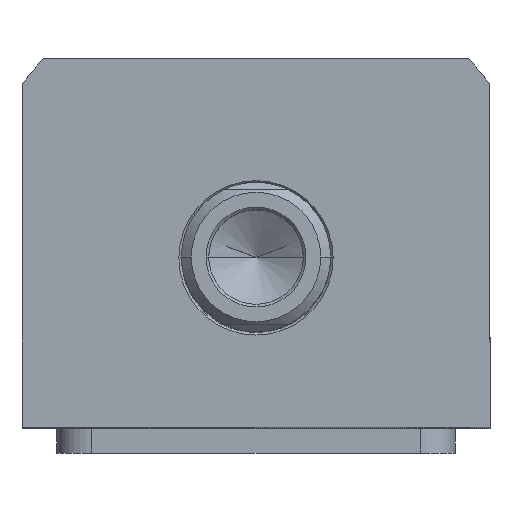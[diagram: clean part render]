
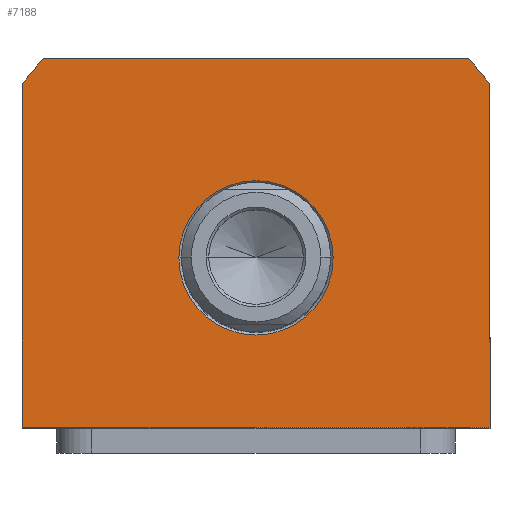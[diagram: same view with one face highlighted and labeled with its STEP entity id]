
A CAD part, top view. The second image highlights one B-rep face of the part: STEP entity #7188.
In plain terms, the highlighted planar face has unit normal (0, 0, 1).
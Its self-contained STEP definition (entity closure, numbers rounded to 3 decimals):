
#687 = ORIENTED_EDGE ( 'NONE', *, *, #1048, .T. ) ;
#690 = VERTEX_POINT ( 'NONE', #9053 ) ;
#769 = AXIS2_PLACEMENT_3D ( 'NONE', #2656, #1727, #3623 ) ;
#892 = CARTESIAN_POINT ( 'NONE',  ( 15.5, 0., 82.5 ) ) ;
#948 = ORIENTED_EDGE ( 'NONE', *, *, #10104, .T. ) ;
#1048 = EDGE_CURVE ( 'NONE', #9384, #5693, #2373, .T. ) ;
#1379 = EDGE_CURVE ( 'NONE', #7398, #3176, #8365, .T. ) ;
#1419 = EDGE_LOOP ( 'NONE', ( #9853, #3098 ) ) ;
#1727 = DIRECTION ( 'NONE',  ( 0., 0., -1. ) ) ;
#2050 = CIRCLE ( 'NONE', #7270, 15.5 ) ;
#2059 = CIRCLE ( 'NONE', #4305, 58.5 ) ;
#2281 = CARTESIAN_POINT ( 'NONE',  ( -47., -34., 82.5 ) ) ;
#2373 = LINE ( 'NONE', #5075, #10831 ) ;
#2483 = FACE_OUTER_BOUND ( 'NONE', #4759, .T. ) ;
#2656 = CARTESIAN_POINT ( 'NONE',  ( 0., 0., 82.5 ) ) ;
#3098 = ORIENTED_EDGE ( 'NONE', *, *, #1379, .T. ) ;
#3176 = VERTEX_POINT ( 'NONE', #892 ) ;
#3299 = ORIENTED_EDGE ( 'NONE', *, *, #9909, .T. ) ;
#3623 = DIRECTION ( 'NONE',  ( 1., 0., 0. ) ) ;
#3935 = DIRECTION ( 'NONE',  ( 1., 0., 0. ) ) ;
#4305 = AXIS2_PLACEMENT_3D ( 'NONE', #6204, #6172, #7148 ) ;
#4369 = CARTESIAN_POINT ( 'NONE',  ( 47., 34.832, 82.5 ) ) ;
#4450 = PLANE ( 'NONE',  #4628 ) ;
#4505 = CARTESIAN_POINT ( 'NONE',  ( -42.688, 40., 82.5 ) ) ;
#4628 = AXIS2_PLACEMENT_3D ( 'NONE', #11783, #9943, #5250 ) ;
#4677 = VERTEX_POINT ( 'NONE', #10789 ) ;
#4759 = EDGE_LOOP ( 'NONE', ( #3299, #9608, #11047, #9702, #948, #687 ) ) ;
#5075 = CARTESIAN_POINT ( 'NONE',  ( -47., -34., 82.5 ) ) ;
#5215 = VECTOR ( 'NONE', #8835, 1000. ) ;
#5245 = DIRECTION ( 'NONE',  ( 0., 0., -1. ) ) ;
#5250 = DIRECTION ( 'NONE',  ( 1., 0., 0. ) ) ;
#5693 = VERTEX_POINT ( 'NONE', #2281 ) ;
#5769 = DIRECTION ( 'NONE',  ( 1., 0., 0. ) ) ;
#6172 = DIRECTION ( 'NONE',  ( 0., 0., 1. ) ) ;
#6204 = CARTESIAN_POINT ( 'NONE',  ( 0., 0., 82.5 ) ) ;
#6665 = EDGE_CURVE ( 'NONE', #7978, #11705, #10065, .T. ) ;
#7148 = DIRECTION ( 'NONE',  ( 1., 0., 0. ) ) ;
#7157 = CARTESIAN_POINT ( 'NONE',  ( 47., 34.832, 82.5 ) ) ;
#7161 = VECTOR ( 'NONE', #7198, 1000. ) ;
#7188 = ADVANCED_FACE ( 'NONE', ( #8186, #2483 ), #4450, .T. ) ;
#7198 = DIRECTION ( 'NONE',  ( -1., 0., 0. ) ) ;
#7270 = AXIS2_PLACEMENT_3D ( 'NONE', #10738, #5245, #11666 ) ;
#7398 = VERTEX_POINT ( 'NONE', #9587 ) ;
#7613 = LINE ( 'NONE', #4505, #7161 ) ;
#7863 = CARTESIAN_POINT ( 'NONE',  ( -47., 34.832, 82.5 ) ) ;
#7864 = CARTESIAN_POINT ( 'NONE',  ( 47., -34., 82.5 ) ) ;
#7978 = VERTEX_POINT ( 'NONE', #7864 ) ;
#8186 = FACE_BOUND ( 'NONE', #1419, .T. ) ;
#8365 = CIRCLE ( 'NONE', #769, 15.5 ) ;
#8835 = DIRECTION ( 'NONE',  ( 0., 1., 0. ) ) ;
#8933 = EDGE_CURVE ( 'NONE', #4677, #690, #7613, .T. ) ;
#9053 = CARTESIAN_POINT ( 'NONE',  ( -42.688, 40., 82.5 ) ) ;
#9384 = VERTEX_POINT ( 'NONE', #7863 ) ;
#9476 = CARTESIAN_POINT ( 'NONE',  ( 47., -34., 82.5 ) ) ;
#9587 = CARTESIAN_POINT ( 'NONE',  ( -15.5, 0., 82.5 ) ) ;
#9608 = ORIENTED_EDGE ( 'NONE', *, *, #6665, .T. ) ;
#9702 = ORIENTED_EDGE ( 'NONE', *, *, #8933, .T. ) ;
#9853 = ORIENTED_EDGE ( 'NONE', *, *, #11720, .T. ) ;
#9883 = EDGE_CURVE ( 'NONE', #11705, #4677, #10227, .T. ) ;
#9909 = EDGE_CURVE ( 'NONE', #5693, #7978, #9934, .T. ) ;
#9934 = LINE ( 'NONE', #9476, #10956 ) ;
#9943 = DIRECTION ( 'NONE',  ( 0., 0., 1. ) ) ;
#10065 = LINE ( 'NONE', #7157, #5215 ) ;
#10104 = EDGE_CURVE ( 'NONE', #690, #9384, #2059, .T. ) ;
#10227 = CIRCLE ( 'NONE', #11592, 58.5 ) ;
#10297 = DIRECTION ( 'NONE',  ( 0., 0., 1. ) ) ;
#10738 = CARTESIAN_POINT ( 'NONE',  ( 0., 0., 82.5 ) ) ;
#10789 = CARTESIAN_POINT ( 'NONE',  ( 42.688, 40., 82.5 ) ) ;
#10831 = VECTOR ( 'NONE', #11499, 1000. ) ;
#10956 = VECTOR ( 'NONE', #5769, 1000. ) ;
#11047 = ORIENTED_EDGE ( 'NONE', *, *, #9883, .T. ) ;
#11320 = CARTESIAN_POINT ( 'NONE',  ( 0., 0., 82.5 ) ) ;
#11499 = DIRECTION ( 'NONE',  ( 0., -1., 0. ) ) ;
#11592 = AXIS2_PLACEMENT_3D ( 'NONE', #11320, #10297, #3935 ) ;
#11666 = DIRECTION ( 'NONE',  ( 1., 0., 0. ) ) ;
#11705 = VERTEX_POINT ( 'NONE', #4369 ) ;
#11720 = EDGE_CURVE ( 'NONE', #3176, #7398, #2050, .T. ) ;
#11783 = CARTESIAN_POINT ( 'NONE',  ( 0., 0., 82.5 ) ) ;
